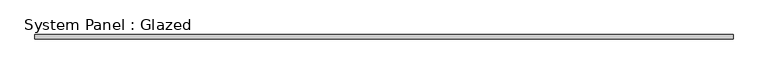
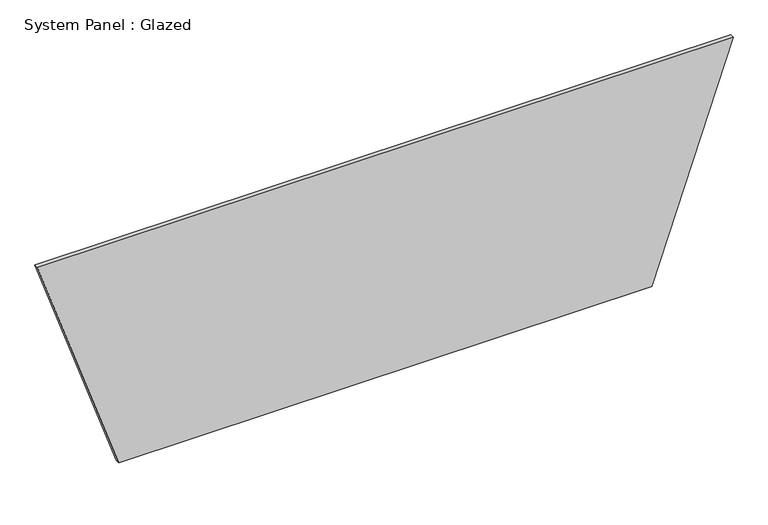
"""IFC4 building model written with IfcOpenShell, lengths in millimetres: plate geometry, System Panel : Glazed."""

import ifcopenshell
import ifcopenshell.guid

model = None  # the IFC model being written
_history = None  # IfcOwnerHistory: only IFC2X3 demands one
_inside = {}  # id of a spatial element -> (the spatial element, [elements in it])
_under = {}  # id of a project, library or spatial element -> (it, [spatial elements below it])
_declared = {}  # id of a project -> (the project, [libraries it declares])
_typed = {}  # id of a type object -> (the type object, [elements of that type])
_made_of = {}  # id of a material, layer set ... -> (it, [elements and type objects made of it])


def new_model(schema):
    """Start an empty IFC model of exactly this schema.

    Asked for "IFC4X3", IfcOpenShell would pick the latest addendum, in which some entities
    have other attributes; the version numbers below select the first issue.
    IFC2X3 requires an IfcOwnerHistory on every rooted entity: one is made here for all.
    """
    global model, _history
    if schema == "IFC4X3":
        model = ifcopenshell.file(schema_version=(4, 3, 0, 0))
    else:
        model = ifcopenshell.file(schema=schema)
    _inside.clear()
    _under.clear()
    _declared.clear()
    _typed.clear()
    _made_of.clear()
    _history = None
    if model.schema == "IFC2X3":
        org = make("IfcOrganization", Name="unknown")
        user = make(
            "IfcPersonAndOrganization",
            ThePerson=make("IfcPerson", FamilyName="unknown"),
            TheOrganization=org,
        )
        app = make(
            "IfcApplication",
            ApplicationDeveloper=org,
            Version="unknown",
            ApplicationFullName="unknown",
            ApplicationIdentifier="unknown",
        )
        _history = make(
            "IfcOwnerHistory",
            OwningUser=user,
            OwningApplication=app,
            ChangeAction="ADDED",
            CreationDate=0,
        )
    return model


def make(cls, **values):
    """One entity of the class cls with the attributes given. An attribute that is None is left unset."""
    return model.create_entity(
        cls, **{name: value for name, value in values.items() if value is not None}
    )


def rooted(cls, **values):
    """An entity with a GlobalId (a new one), such as an element, a storey or a relation."""
    return make(cls, GlobalId=ifcopenshell.guid.new(), OwnerHistory=_history, **values)


def si_unit(unit_type, name, prefix=None):
    """IfcSIUnit, for example si_unit("LENGTHUNIT", "METRE", prefix="MILLI")."""
    return make("IfcSIUnit", UnitType=unit_type, Prefix=prefix, Name=name)


def assignment(units):
    """IfcUnitAssignment: the units of a project."""
    return None if units is None else make("IfcUnitAssignment", Units=units)


def point(xyz):
    """IfcCartesianPoint."""
    return None if xyz is None else make("IfcCartesianPoint", Coordinates=xyz)


def direction(xyz):
    """IfcDirection."""
    return None if xyz is None else make("IfcDirection", DirectionRatios=xyz)


def frame(location, z_axis=None, x_axis=None):
    """IfcAxis2Placement3D, a coordinate frame: its origin and axes. An axis left out is left unset."""
    return make(
        "IfcAxis2Placement3D",
        Location=point(location),
        Axis=direction(z_axis),
        RefDirection=direction(x_axis),
    )


def origin():
    """The frame at (0, 0, 0) with its axes left unset."""
    return frame((0.0, 0.0, 0.0))


def place(relative_to, where):
    """IfcLocalPlacement: puts the frame where relative to a parent placement (None: the world)."""
    return make(
        "IfcLocalPlacement", PlacementRelTo=relative_to, RelativePlacement=where
    )


def context(
    kind, dimensions, precision=None, world=None, true_north=None, identifier=None
):
    """IfcGeometricRepresentationContext, for example the 3D "Model" context."""
    return make(
        "IfcGeometricRepresentationContext",
        ContextIdentifier=identifier,
        ContextType=kind,
        CoordinateSpaceDimension=dimensions,
        Precision=precision,
        WorldCoordinateSystem=world,
        TrueNorth=true_north,
    )


def project(units=None, contexts=None):
    """IfcProject with its units and contexts."""
    return rooted(
        "IfcProject",
        Name="project",
        RepresentationContexts=contexts,
        UnitsInContext=assignment(units),
    )


def spatial(cls, under=None, at=None, **own):
    """A site, building, storey or space (cls), placed at a placement, below another one or the project."""
    s = rooted(cls, ObjectPlacement=at, **own)
    if under is not None:
        _under.setdefault(under.id(), (under, []))[1].append(s)
    return s


def polyline(points):
    """IfcPolyline through the points."""
    return make("IfcPolyline", Points=[point(p) for p in points])


def outline(outer, holes=None, kind="AREA"):
    """IfcArbitraryClosedProfileDef: a profile drawn as a closed curve; with holes, ...WithVoids."""
    if holes is None:
        return make("IfcArbitraryClosedProfileDef", ProfileType=kind, OuterCurve=outer)
    return make(
        "IfcArbitraryProfileDefWithVoids",
        ProfileType=kind,
        OuterCurve=outer,
        InnerCurves=holes,
    )


def extrude(swept, where, along, depth):
    """IfcExtrudedAreaSolid: the profile swept, set in the frame where, extruded along a direction by depth."""
    return make(
        "IfcExtrudedAreaSolid",
        SweptArea=swept,
        Position=where,
        ExtrudedDirection=direction(along),
        Depth=depth,
    )


def shape(context_of_items, identifier, shape_type, items):
    """IfcShapeRepresentation: the items that make up one representation, for example the "Body"."""
    return make(
        "IfcShapeRepresentation",
        ContextOfItems=context_of_items,
        RepresentationIdentifier=identifier,
        RepresentationType=shape_type,
        Items=items,
    )


def source(mapping_origin, context_of_items, identifier, shape_type, items):
    """IfcRepresentationMap: a shape defined once, which mapped items show again and again."""
    return make(
        "IfcRepresentationMap",
        MappingOrigin=mapping_origin,
        MappedRepresentation=shape(context_of_items, identifier, shape_type, items),
    )


def transform(
    local_origin,
    x_axis=None,
    y_axis=None,
    z_axis=None,
    scale=None,
    scale2=None,
    scale3=None,
    uniform=True,
):
    """IfcCartesianTransformationOperator3D, or its non-uniform kind. x_axis, y_axis, z_axis: its Axis1, 2, 3."""
    if uniform:
        return make(
            "IfcCartesianTransformationOperator3D",
            Axis1=direction(x_axis),
            Axis2=direction(y_axis),
            LocalOrigin=point(local_origin),
            Scale=scale,
            Axis3=direction(z_axis),
        )
    return make(
        "IfcCartesianTransformationOperator3DnonUniform",
        Axis1=direction(x_axis),
        Axis2=direction(y_axis),
        LocalOrigin=point(local_origin),
        Scale=scale,
        Axis3=direction(z_axis),
        Scale2=scale2,
        Scale3=scale3,
    )


def mapped(mapping_source, mapping_target):
    """IfcMappedItem: shows the shape of a source again, moved by a transform."""
    return make(
        "IfcMappedItem", MappingSource=mapping_source, MappingTarget=mapping_target
    )


def made_of(thing, what):
    """Note that an element or type object is made of a material, layer set ...; save() writes the relation."""
    if what is not None:
        _made_of.setdefault(what.id(), (what, []))[1].append(thing)
    return thing


def element(
    cls,
    number,
    at=None,
    inside=None,
    cuts=None,
    type_object=None,
    material=None,
    context=None,
    identifier="Body",
    shape_type=None,
    held_by="IfcProductDefinitionShape",
    body=None,
    shapes=None,
    **own,
):
    """One element of the class cls, such as IfcWall. Its Tag is "e" and its number.

    at: its placement. inside: the storey or other place that contains it. cuts: it is an
    opening in that element (IfcRelVoidsElement). A single representation is given by context,
    identifier, shape_type and body (its items); several are given by shapes. held_by: the class
    of the entity that holds the representations. save() writes the other relations.
    """
    e = rooted(cls, Tag="e%d" % number, ObjectPlacement=at, **own)
    if body is not None:
        shapes = [shape(context, identifier, shape_type, body)]
    if shapes is not None:
        e.Representation = make(held_by, Representations=shapes)
    if inside is not None:
        _inside.setdefault(inside.id(), (inside, []))[1].append(e)
    if cuts is not None:
        rooted(
            "IfcRelVoidsElement", RelatingBuildingElement=cuts, RelatedOpeningElement=e
        )
    if type_object is not None:
        _typed.setdefault(type_object.id(), (type_object, []))[1].append(e)
    return made_of(e, material)


def aggregate(whole, parts):
    """IfcRelAggregates: a whole, such as a stair, and the parts it consists of."""
    return rooted("IfcRelAggregates", RelatingObject=whole, RelatedObjects=parts)


def save(model, path):
    """Write the relations noted so far, then the file.

    IfcRelAggregates (storeys below a building ...), IfcRelContainedInSpatialStructure (elements
    in a storey), IfcRelDefinesByType, IfcRelAssociatesMaterial and IfcRelDeclares: one each for
    every whole, place, type object, material and project.
    """
    for whole, parts in _under.values():
        aggregate(whole, parts)
    for where, things in _inside.values():
        rooted(
            "IfcRelContainedInSpatialStructure",
            RelatedElements=things,
            RelatingStructure=where,
        )
    for kind, things in _typed.values():
        rooted("IfcRelDefinesByType", RelatedObjects=things, RelatingType=kind)
    for what, things in _made_of.values():
        rooted("IfcRelAssociatesMaterial", RelatedObjects=things, RelatingMaterial=what)
    for by, libraries in _declared.values():
        rooted("IfcRelDeclares", RelatingContext=by, RelatedDefinitions=libraries)
    model.write(path)


def system_panel_glazed_ad1a7a07(model_context):
    return source(origin(), model_context, "Body", "SweptSolid", [
        extrude(outline(polyline([(0.0, -1550.2092604), (0.0, 1550.2092604), (1367.7020512, 2022.9483412), (1367.7020512, -2022.9483412), (0.0, -1550.2092604)])), frame((0.0, -49.5, 0.0), z_axis=(0.0, 1.0, 0.0), x_axis=(0.0, 0.0, 1.0)), (0.0, 0.0, 1.0), 25.0),
    ])


if __name__ == "__main__":
    model = new_model("IFC4")
    model_context = context("Model", 3, world=origin())
    ifc_project = project(units=[si_unit("LENGTHUNIT", "METRE", prefix="MILLI")], contexts=[model_context])
    site = spatial("IfcSite", under=ifc_project)
    building = spatial("IfcBuilding", under=site)
    placement = place(None, origin())
    system_panel_glazed_shape = system_panel_glazed_ad1a7a07(model_context)
    element("IfcPlate", 1, ObjectType="System Panel : Glazed", at=placement, inside=building, context=model_context, shape_type="MappedRepresentation", body=[
        mapped(system_panel_glazed_shape, transform((0.0, 0.0, 0.0), x_axis=(1.0, 0.0, 0.0), y_axis=(0.0, 1.0, 0.0), z_axis=(0.0, 0.0, 1.0))),
    ])
    save(model, "model.ifc")
